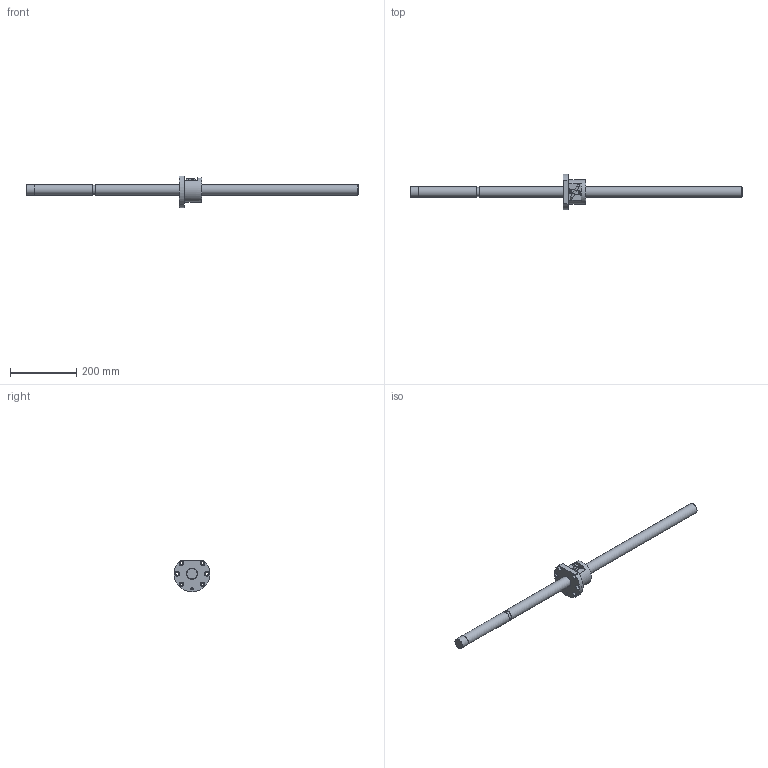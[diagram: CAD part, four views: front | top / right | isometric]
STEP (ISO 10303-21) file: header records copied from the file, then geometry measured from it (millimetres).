
FILE_DESCRIPTION((''),'2;1');
FILE_NAME('D:\製品 (図面)\カタログ用3D\ネジ関連\STEP形式\KBS(C)\KBS(C)3210-1000.stp','2010-06-02T14:23:34',('Tsuchiya'),(''),'Autodesk Inventor 10','Autodesk Inventor 10','');
FILE_SCHEMA(('AUTOMOTIVE_DESIGN { 1 0 10303 214 1 1 1 1 }'));
Length unit declared in the file: millimetre
Products named in the file (3): KBS(C)3210-1000; KBS(C)3210-10001; KBS(C)3210-10002
Assembly tree (2 placements, depth 2):
  KBS(C)3210-1000
    KBS(C)3210-10001
    KBS(C)3210-10002
Bounding box: 1000 x 108 x 95 mm (x, y, z)
Volume: 1078417.8 mm3; surface area: 146675.2 mm2
Topology: 2 solids, 2 shells, 95 faces, 231 edges, 152 vertices
Faces by surface type: plane 41, cylinder 32, bspline 16, cone 4, torus 2
Full cylindrical faces by diameter (mm): 6 x1, 6.4 x1, 7.4 x1, 9 x6, 14 x6, 27.2 x1, 31.5 x1, 32 x3, 34 x2, 74 x1
Entity records: 2871 total; most frequent: CARTESIAN_POINT 734, DIRECTION 408, ORIENTED_EDGE 380, EDGE_CURVE 190, EDGE_LOOP 160, AXIS2_PLACEMENT_3D 158, VERTEX_POINT 144, FACE_OUTER_BOUND 95
